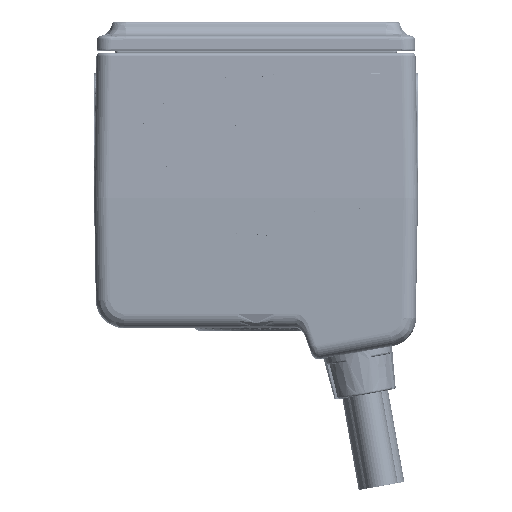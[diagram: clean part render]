
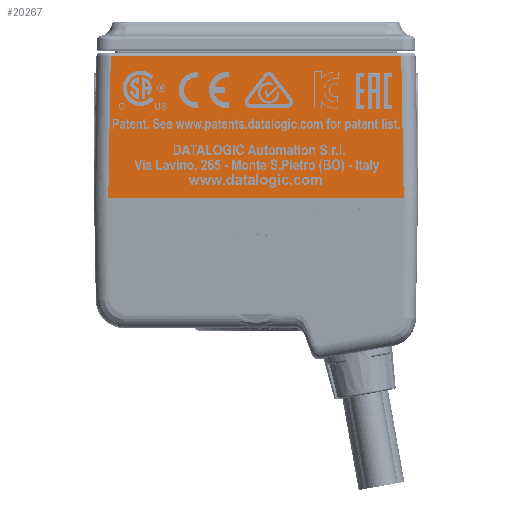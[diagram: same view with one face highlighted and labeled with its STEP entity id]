
A CAD part, top view. The second image highlights one B-rep face of the part: STEP entity #20267.
In plain terms, the highlighted planar face has unit normal (0, 0.018, 1).
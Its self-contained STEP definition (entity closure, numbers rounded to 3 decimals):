
#20267=ADVANCED_FACE('',(#33767),#26680,.T.);
#26680=PLANE('',#169828);
#33767=FACE_OUTER_BOUND('',#43968,.T.);
#43968=EDGE_LOOP('',(#73179,#73180,#73181,#73182));
#73179=ORIENTED_EDGE('',*,*,#123103,.F.);
#73180=ORIENTED_EDGE('',*,*,#123104,.T.);
#73181=ORIENTED_EDGE('',*,*,#123105,.T.);
#73182=ORIENTED_EDGE('',*,*,#123106,.T.);
#104690=VERTEX_POINT('',#259871);
#104691=VERTEX_POINT('',#259872);
#104692=VERTEX_POINT('',#259874);
#104693=VERTEX_POINT('',#259876);
#123103=EDGE_CURVE('',#104690,#104691,#140079,.T.);
#123104=EDGE_CURVE('',#104690,#104692,#140080,.T.);
#123105=EDGE_CURVE('',#104692,#104693,#140081,.T.);
#123106=EDGE_CURVE('',#104693,#104691,#140082,.T.);
#140079=LINE('',#259870,#149146);
#140080=LINE('',#259873,#149147);
#140081=LINE('',#259875,#149148);
#140082=LINE('',#259877,#149149);
#149146=VECTOR('',#199623,1.);
#149147=VECTOR('',#199624,1.);
#149148=VECTOR('',#199625,1.);
#149149=VECTOR('',#199626,1.);
#169828=AXIS2_PLACEMENT_3D('',#259878,#199627,#199628);
#199623=DIRECTION('',(-1.,0.,0.));
#199624=DIRECTION('',(-0.017,1.,-0.017));
#199625=DIRECTION('',(-1.,0.,0.));
#199626=DIRECTION('',(-0.017,-1.,0.017));
#199627=DIRECTION('',(0.,0.017,1.));
#199628=DIRECTION('',(0.,-1.,0.017));
#259870=CARTESIAN_POINT('',(22.7,-5.15,11.75));
#259871=CARTESIAN_POINT('',(20.7,-5.15,11.75));
#259872=CARTESIAN_POINT('',(-20.7,-5.15,11.75));
#259873=CARTESIAN_POINT('',(20.701,-5.185,11.751));
#259874=CARTESIAN_POINT('',(20.354,14.709,11.403));
#259875=CARTESIAN_POINT('',(-22.345,14.709,11.403));
#259876=CARTESIAN_POINT('',(-20.354,14.709,11.403));
#259877=CARTESIAN_POINT('',(-20.687,-4.393,11.737));
#259878=CARTESIAN_POINT('',(22.7,-5.15,11.75));
